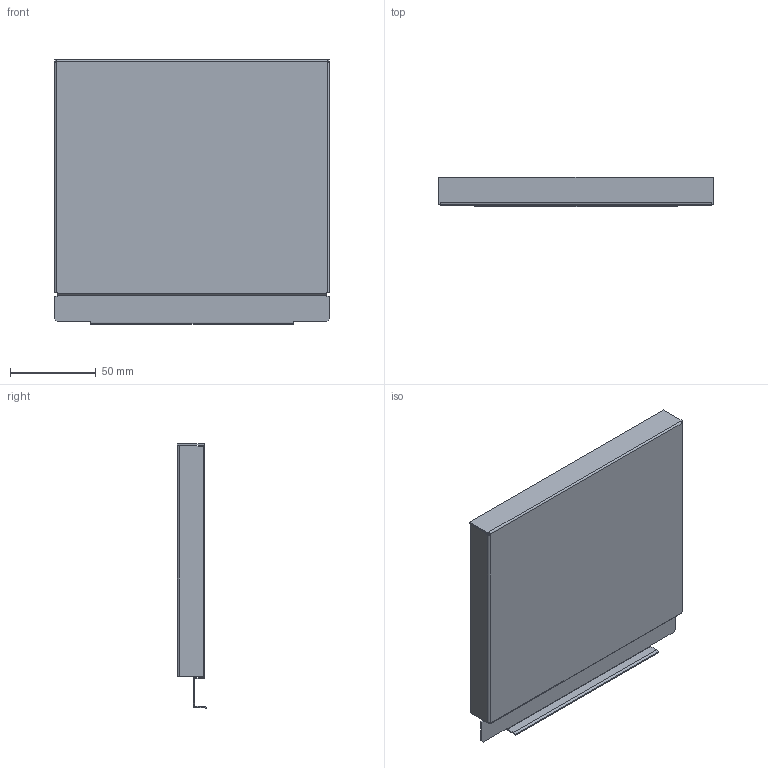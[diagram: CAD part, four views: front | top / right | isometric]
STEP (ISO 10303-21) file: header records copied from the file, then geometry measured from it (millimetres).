
FILE_DESCRIPTION (( 'STEP AP214' ), '1' );
FILE_NAME ('_STRW_H154_KAB_250.step', '2010-08-24T14:40:31', ( 'grass' ), ( '' ), 'SwSTEP 2.0', 'SolidWorks 2009', '' );
FILE_SCHEMA (( 'AUTOMOTIVE_DESIGN' ));
Length unit declared in the file: millimetre
Products named in the file (1): _STRW_H154_KAB_250
Bounding box: 160 x 17 x 154.14 mm (x, y, z)
Volume: 27265.4 mm3; surface area: 68787.8 mm2
Topology: 1 solids, 1 shells, 76 faces, 214 edges, 140 vertices
Faces by surface type: plane 54, cylinder 22
Entity records: 2472 total; most frequent: CARTESIAN_POINT 431, ORIENTED_EDGE 428, DIRECTION 412, EDGE_CURVE 214, LINE 170, VECTOR 170, VERTEX_POINT 140, AXIS2_PLACEMENT_3D 121
